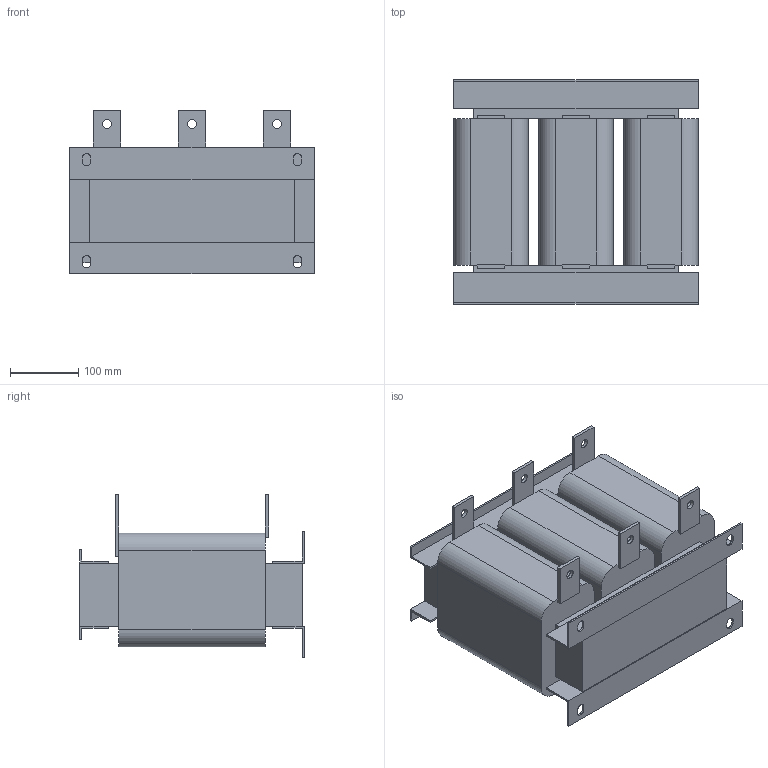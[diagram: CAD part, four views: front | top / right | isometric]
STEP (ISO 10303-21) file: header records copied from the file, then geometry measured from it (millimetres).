
FILE_DESCRIPTION(/* description */ (''),/* implementation_level */ '2;1');
FILE_NAME(/* name */ 'E:\Работа\Веда МК (Данфосс)\!Текущие задачи\2024.08.30 3D модели\Дроссели\ACO 1-проц 660 В\STP\ACO-C-0466-T6.stp',/* time_stamp */ '2024-11-01T15:33:03+04:00',/* author */ ('Александр (огранич)'),/* organization */ (''),/* preprocessor_version */ 'ST-DEVELOPER v18.1',/* originating_system */ 'Autodesk Inventor 2021',/* authorisation */ '');
FILE_SCHEMA (('AUTOMOTIVE_DESIGN { 1 0 10303 214 3 1 1 }'));
Length unit declared in the file: millimetre
Products named in the file (1): ACO-0015-T4-4
Bounding box: 360 x 330 x 240 mm (x, y, z)
Volume: 15063789.8 mm3; surface area: 740684 mm2
Topology: 3 solids, 3 shells, 136 faces, 373 edges, 239 vertices
Faces by surface type: plane 110, cylinder 26
Full cylindrical faces by diameter (mm): 13 x6
Entity records: 4327 total; most frequent: CARTESIAN_POINT 749, ORIENTED_EDGE 746, DIRECTION 702, EDGE_CURVE 373, LINE 318, VECTOR 318, VERTEX_POINT 239, AXIS2_PLACEMENT_3D 192
